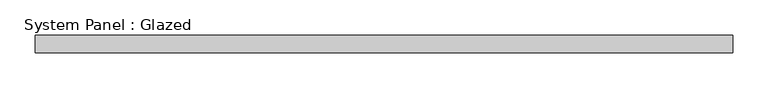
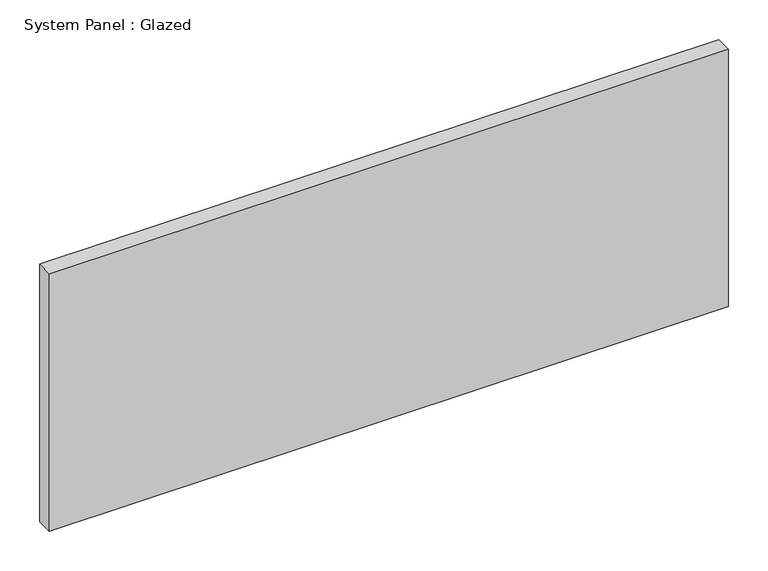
"""IFC4 building model written with IfcOpenShell, lengths in millimetres: plate geometry, System Panel : Glazed."""

from ifc_helpers import new_model, si_unit, origin, origin_with_axes, place, context, project, spatial, polyline, outline, extrude, source, transform, mapped, element, save


def system_panel_glazed_b5ca403f(model_context):
    return source(origin(), model_context, "Body", "SweptSolid", [
        extrude(outline(polyline([(495.9415842, 24.5), (-495.9415842, 24.5), (-495.9415842, 49.5), (495.9415842, 49.5), (495.9415842, 24.5)])), origin_with_axes(), (0.0, 0.0, 1.0), 397.846895),
    ])


if __name__ == "__main__":
    model = new_model("IFC4")
    model_context = context("Model", 3, world=origin())
    ifc_project = project(units=[si_unit("LENGTHUNIT", "METRE", prefix="MILLI")], contexts=[model_context])
    site = spatial("IfcSite", under=ifc_project)
    building = spatial("IfcBuilding", under=site)
    placement = place(None, origin())
    system_panel_glazed_shape = system_panel_glazed_b5ca403f(model_context)
    element("IfcPlate", 1, ObjectType="System Panel : Glazed", at=placement, inside=building, context=model_context, shape_type="MappedRepresentation", body=[
        mapped(system_panel_glazed_shape, transform((0.0, 0.0, 0.0), x_axis=(1.0, 0.0, 0.0), y_axis=(0.0, 1.0, 0.0), z_axis=(0.0, 0.0, 1.0))),
    ])
    save(model, "model.ifc")
